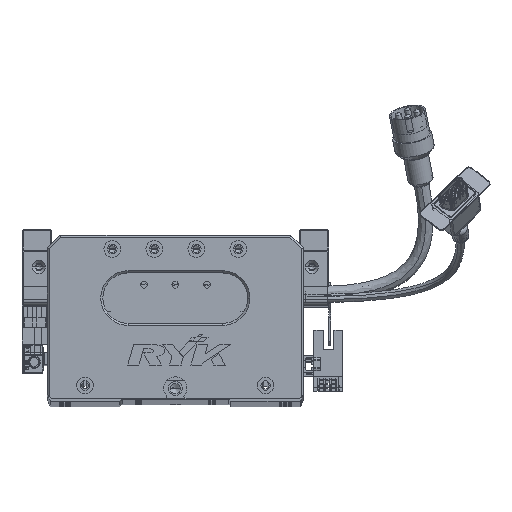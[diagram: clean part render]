
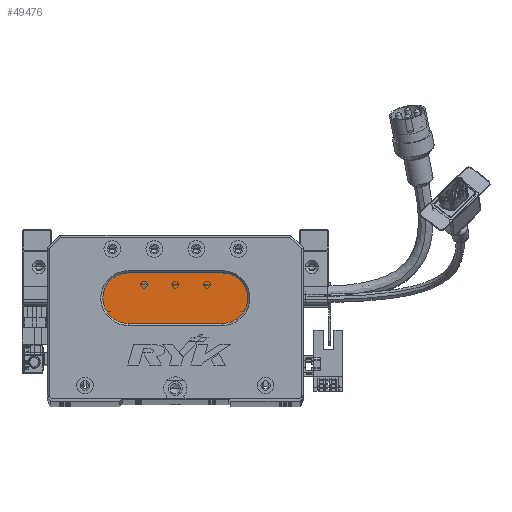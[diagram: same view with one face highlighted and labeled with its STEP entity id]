
A CAD part, top view. The second image highlights one B-rep face of the part: STEP entity #49476.
In plain terms, the highlighted planar face has unit normal (0, 0, 1) as drawn and (0, 0, -1) by its records, which use the part's own axes.
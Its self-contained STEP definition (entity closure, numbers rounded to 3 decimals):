
#91 = EDGE_CURVE ( 'NONE', #94309, #25625, #27168, .T. ) ;
#800 = CIRCLE ( 'NONE', #85778, 12. ) ;
#6095 = DIRECTION ( 'NONE',  ( 1., 0., 0. ) ) ;
#7636 = VECTOR ( 'NONE', #35246, 1000. ) ;
#9352 = EDGE_CURVE ( 'NONE', #46757, #94309, #85492, .T. ) ;
#10942 = CARTESIAN_POINT ( 'NONE',  ( 83.5, 48., 13. ) ) ;
#11265 = DIRECTION ( 'NONE',  ( 0., 0., -1. ) ) ;
#14561 = ORIENTED_EDGE ( 'NONE', *, *, #28619, .T. ) ;
#15318 = DIRECTION ( 'NONE',  ( -1., 0., 0. ) ) ;
#16063 = CARTESIAN_POINT ( 'NONE',  ( 38.5, 48., 13. ) ) ;
#17612 = VECTOR ( 'NONE', #6095, 1000. ) ;
#23703 = DIRECTION ( 'NONE',  ( -1., 0., 0. ) ) ;
#25162 = CARTESIAN_POINT ( 'NONE',  ( 38.5, 48., 13. ) ) ;
#25498 = DIRECTION ( 'NONE',  ( 0., 0., -1. ) ) ;
#25625 = VERTEX_POINT ( 'NONE', #75072 ) ;
#26029 = CARTESIAN_POINT ( 'NONE',  ( 83.5, 36., 13. ) ) ;
#27125 = DIRECTION ( 'NONE',  ( -1., 0., 0. ) ) ;
#27168 = LINE ( 'NONE', #74394, #17612 ) ;
#28379 = ORIENTED_EDGE ( 'NONE', *, *, #96061, .T. ) ;
#28619 = EDGE_CURVE ( 'NONE', #60563, #50606, #31318, .T. ) ;
#29434 = EDGE_LOOP ( 'NONE', ( #47775, #14561, #28379, #94936, #74489 ) ) ;
#31318 = LINE ( 'NONE', #59065, #7636 ) ;
#35246 = DIRECTION ( 'NONE',  ( -1., 0., 0. ) ) ;
#36120 = CARTESIAN_POINT ( 'NONE',  ( 38.5, 60., 13. ) ) ;
#38223 = CARTESIAN_POINT ( 'NONE',  ( 83.5, 48., 13. ) ) ;
#42735 = CARTESIAN_POINT ( 'NONE',  ( 26.5, 48., 13. ) ) ;
#46662 = FACE_OUTER_BOUND ( 'NONE', #29434, .T. ) ;
#46757 = VERTEX_POINT ( 'NONE', #42735 ) ;
#47775 = ORIENTED_EDGE ( 'NONE', *, *, #58921, .T. ) ;
#48698 = PLANE ( 'NONE',  #96248 ) ;
#49476 = ADVANCED_FACE ( 'NONE', ( #46662 ), #48698, .T. ) ;
#49685 = CIRCLE ( 'NONE', #65733, 12. ) ;
#50606 = VERTEX_POINT ( 'NONE', #86265 ) ;
#58921 = EDGE_CURVE ( 'NONE', #25625, #60563, #800, .T. ) ;
#59065 = CARTESIAN_POINT ( 'NONE',  ( 83.5, 36., 13. ) ) ;
#60563 = VERTEX_POINT ( 'NONE', #26029 ) ;
#65733 = AXIS2_PLACEMENT_3D ( 'NONE', #16063, #98299, #23703 ) ;
#74394 = CARTESIAN_POINT ( 'NONE',  ( 83.5, 60., 13. ) ) ;
#74489 = ORIENTED_EDGE ( 'NONE', *, *, #91, .T. ) ;
#75072 = CARTESIAN_POINT ( 'NONE',  ( 83.5, 60., 13. ) ) ;
#76611 = DIRECTION ( 'NONE',  ( 0., 0., -1. ) ) ;
#78709 = AXIS2_PLACEMENT_3D ( 'NONE', #25162, #25498, #27125 ) ;
#85492 = CIRCLE ( 'NONE', #78709, 12. ) ;
#85778 = AXIS2_PLACEMENT_3D ( 'NONE', #38223, #76611, #15318 ) ;
#86265 = CARTESIAN_POINT ( 'NONE',  ( 38.5, 36., 13. ) ) ;
#94309 = VERTEX_POINT ( 'NONE', #36120 ) ;
#94484 = DIRECTION ( 'NONE',  ( -1., 0., 0. ) ) ;
#94936 = ORIENTED_EDGE ( 'NONE', *, *, #9352, .T. ) ;
#96061 = EDGE_CURVE ( 'NONE', #50606, #46757, #49685, .T. ) ;
#96248 = AXIS2_PLACEMENT_3D ( 'NONE', #10942, #11265, #94484 ) ;
#98299 = DIRECTION ( 'NONE',  ( 0., 0., -1. ) ) ;
